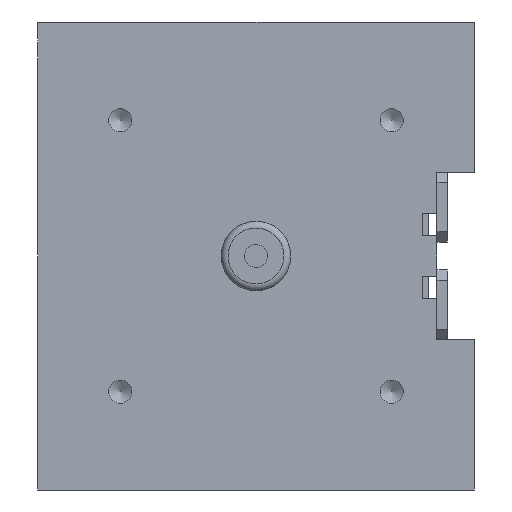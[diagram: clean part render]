
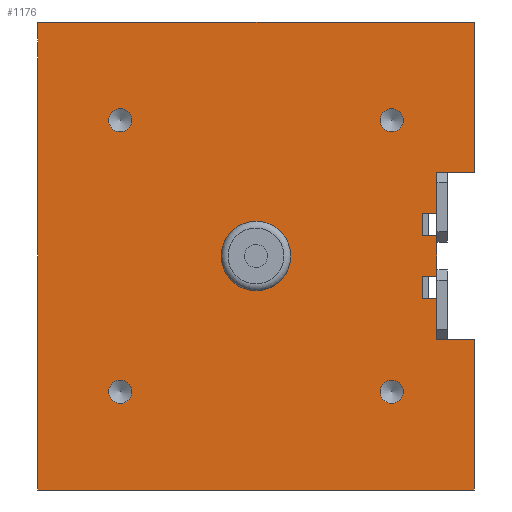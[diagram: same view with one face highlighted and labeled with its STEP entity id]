
A CAD part, front view. The second image highlights one B-rep face of the part: STEP entity #1176.
In plain terms, the highlighted planar face has unit normal (0, -1, 0).
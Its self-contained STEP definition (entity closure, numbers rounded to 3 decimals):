
#970=CARTESIAN_POINT('',(0.,0.,-9.936));
#971=VERTEX_POINT('',#970);
#972=CARTESIAN_POINT('',(0.,0.,0.));
#973=DIRECTION('',(0.0,1.0,0.0));
#974=DIRECTION('',(0.0,0.0,1.0));
#975=AXIS2_PLACEMENT_3D('',#972,#973,#974);
#976=CIRCLE('',#975,9.936);
#977=EDGE_CURVE('',#971,#971,#976,.T.);
#994=CARTESIAN_POINT('',(2.68,0.,0.));
#995=DIRECTION('',(0.0,1.0,0.0));
#996=DIRECTION('',(0.0,0.0,1.0));
#997=AXIS2_PLACEMENT_3D('',#994,#995,#996);
#998=PLANE('',#997);
#999=CARTESIAN_POINT('',(62.5,0.,-67.));
#1000=VERTEX_POINT('',#999);
#1001=CARTESIAN_POINT('',(-62.5,0.,-67.));
#1002=VERTEX_POINT('',#1001);
#1003=CARTESIAN_POINT('',(62.5,0.,-67.));
#1004=DIRECTION('',(-1.0,0.0,0.0));
#1005=VECTOR('',#1004,125.0);
#1006=LINE('',#1003,#1005);
#1007=EDGE_CURVE('',#1000,#1002,#1006,.T.);
#1008=ORIENTED_EDGE('',*,*,#1007,.F.);
#1009=CARTESIAN_POINT('',(62.5,0.,-24.));
#1010=VERTEX_POINT('',#1009);
#1011=CARTESIAN_POINT('',(62.5,0.,-24.));
#1012=DIRECTION('',(0.0,0.0,-1.0));
#1013=VECTOR('',#1012,43.);
#1014=LINE('',#1011,#1013);
#1015=EDGE_CURVE('',#1010,#1000,#1014,.T.);
#1016=ORIENTED_EDGE('',*,*,#1015,.F.);
#1017=CARTESIAN_POINT('',(51.8,0.,-24.));
#1018=VERTEX_POINT('',#1017);
#1019=CARTESIAN_POINT('',(51.8,0.,-24.));
#1020=DIRECTION('',(1.0,0.0,0.0));
#1021=VECTOR('',#1020,10.7);
#1022=LINE('',#1019,#1021);
#1023=EDGE_CURVE('',#1018,#1010,#1022,.T.);
#1024=ORIENTED_EDGE('',*,*,#1023,.F.);
#1025=CARTESIAN_POINT('',(51.8,0.,-12.2));
#1026=VERTEX_POINT('',#1025);
#1027=CARTESIAN_POINT('',(51.8,0.,-12.2));
#1028=DIRECTION('',(0.0,0.0,-1.0));
#1029=VECTOR('',#1028,11.8);
#1030=LINE('',#1027,#1029);
#1031=EDGE_CURVE('',#1026,#1018,#1030,.T.);
#1032=ORIENTED_EDGE('',*,*,#1031,.F.);
#1033=CARTESIAN_POINT('',(47.6,0.,-12.2));
#1034=VERTEX_POINT('',#1033);
#1035=CARTESIAN_POINT('',(47.6,0.,-12.2));
#1036=DIRECTION('',(1.0,0.0,0.0));
#1037=VECTOR('',#1036,4.2);
#1038=LINE('',#1035,#1037);
#1039=EDGE_CURVE('',#1034,#1026,#1038,.T.);
#1040=ORIENTED_EDGE('',*,*,#1039,.F.);
#1041=CARTESIAN_POINT('',(47.6,0.,-5.8));
#1042=VERTEX_POINT('',#1041);
#1043=CARTESIAN_POINT('',(47.6,0.,-5.8));
#1044=DIRECTION('',(0.0,0.0,-1.0));
#1045=VECTOR('',#1044,6.4);
#1046=LINE('',#1043,#1045);
#1047=EDGE_CURVE('',#1042,#1034,#1046,.T.);
#1048=ORIENTED_EDGE('',*,*,#1047,.F.);
#1049=CARTESIAN_POINT('',(51.8,0.,-5.8));
#1050=VERTEX_POINT('',#1049);
#1051=CARTESIAN_POINT('',(51.8,0.,-5.8));
#1052=DIRECTION('',(-1.0,0.0,0.0));
#1053=VECTOR('',#1052,4.2);
#1054=LINE('',#1051,#1053);
#1055=EDGE_CURVE('',#1050,#1042,#1054,.T.);
#1056=ORIENTED_EDGE('',*,*,#1055,.F.);
#1057=CARTESIAN_POINT('',(51.8,0.,5.8));
#1058=VERTEX_POINT('',#1057);
#1059=CARTESIAN_POINT('',(51.8,0.,5.8));
#1060=DIRECTION('',(0.0,0.0,-1.0));
#1061=VECTOR('',#1060,11.6);
#1062=LINE('',#1059,#1061);
#1063=EDGE_CURVE('',#1058,#1050,#1062,.T.);
#1064=ORIENTED_EDGE('',*,*,#1063,.F.);
#1065=CARTESIAN_POINT('',(47.6,0.,5.8));
#1066=VERTEX_POINT('',#1065);
#1067=CARTESIAN_POINT('',(47.6,0.,5.8));
#1068=DIRECTION('',(1.0,0.0,0.0));
#1069=VECTOR('',#1068,4.2);
#1070=LINE('',#1067,#1069);
#1071=EDGE_CURVE('',#1066,#1058,#1070,.T.);
#1072=ORIENTED_EDGE('',*,*,#1071,.F.);
#1073=CARTESIAN_POINT('',(47.6,0.,12.2));
#1074=VERTEX_POINT('',#1073);
#1075=CARTESIAN_POINT('',(47.6,0.,12.2));
#1076=DIRECTION('',(0.0,0.0,-1.0));
#1077=VECTOR('',#1076,6.4);
#1078=LINE('',#1075,#1077);
#1079=EDGE_CURVE('',#1074,#1066,#1078,.T.);
#1080=ORIENTED_EDGE('',*,*,#1079,.F.);
#1081=CARTESIAN_POINT('',(51.8,0.,12.2));
#1082=VERTEX_POINT('',#1081);
#1083=CARTESIAN_POINT('',(51.8,0.,12.2));
#1084=DIRECTION('',(-1.0,0.0,0.0));
#1085=VECTOR('',#1084,4.2);
#1086=LINE('',#1083,#1085);
#1087=EDGE_CURVE('',#1082,#1074,#1086,.T.);
#1088=ORIENTED_EDGE('',*,*,#1087,.F.);
#1089=CARTESIAN_POINT('',(51.8,0.,24.));
#1090=VERTEX_POINT('',#1089);
#1091=CARTESIAN_POINT('',(51.8,0.,24.));
#1092=DIRECTION('',(0.0,0.0,-1.0));
#1093=VECTOR('',#1092,11.8);
#1094=LINE('',#1091,#1093);
#1095=EDGE_CURVE('',#1090,#1082,#1094,.T.);
#1096=ORIENTED_EDGE('',*,*,#1095,.F.);
#1097=CARTESIAN_POINT('',(62.5,0.,24.));
#1098=VERTEX_POINT('',#1097);
#1099=CARTESIAN_POINT('',(62.5,0.,24.));
#1100=DIRECTION('',(-1.0,0.0,0.0));
#1101=VECTOR('',#1100,10.7);
#1102=LINE('',#1099,#1101);
#1103=EDGE_CURVE('',#1098,#1090,#1102,.T.);
#1104=ORIENTED_EDGE('',*,*,#1103,.F.);
#1105=CARTESIAN_POINT('',(62.5,0.,67.));
#1106=VERTEX_POINT('',#1105);
#1107=CARTESIAN_POINT('',(62.5,0.,67.));
#1108=DIRECTION('',(0.0,0.0,-1.0));
#1109=VECTOR('',#1108,43.);
#1110=LINE('',#1107,#1109);
#1111=EDGE_CURVE('',#1106,#1098,#1110,.T.);
#1112=ORIENTED_EDGE('',*,*,#1111,.F.);
#1113=CARTESIAN_POINT('',(-62.5,0.,67.));
#1114=VERTEX_POINT('',#1113);
#1115=CARTESIAN_POINT('',(-62.5,0.,67.));
#1116=DIRECTION('',(1.0,0.0,0.0));
#1117=VECTOR('',#1116,125.0);
#1118=LINE('',#1115,#1117);
#1119=EDGE_CURVE('',#1114,#1106,#1118,.T.);
#1120=ORIENTED_EDGE('',*,*,#1119,.F.);
#1121=CARTESIAN_POINT('',(-62.5,0.,-67.));
#1122=DIRECTION('',(0.0,0.0,1.0));
#1123=VECTOR('',#1122,134.0);
#1124=LINE('',#1121,#1123);
#1125=EDGE_CURVE('',#1002,#1114,#1124,.T.);
#1126=ORIENTED_EDGE('',*,*,#1125,.F.);
#1127=EDGE_LOOP('',(#1008,#1016,#1024,#1032,#1040,#1048,#1056,#1064,#1072,#1080,#1088,#1096,#1104,#1112,#1120,#1126));
#1128=FACE_OUTER_BOUND('',#1127,.T.);
#1129=CARTESIAN_POINT('',(38.891,0.,-42.214));
#1130=VERTEX_POINT('',#1129);
#1131=CARTESIAN_POINT('',(38.891,0.,-38.891));
#1132=DIRECTION('',(0.0,1.0,0.0));
#1133=DIRECTION('',(0.0,0.0,-1.0));
#1134=AXIS2_PLACEMENT_3D('',#1131,#1132,#1133);
#1135=CIRCLE('',#1134,3.324);
#1136=EDGE_CURVE('',#1130,#1130,#1135,.T.);
#1137=ORIENTED_EDGE('',*,*,#1136,.T.);
#1138=EDGE_LOOP('',(#1137));
#1139=FACE_BOUND('',#1138,.T.);
#1140=CARTESIAN_POINT('',(38.891,0.,35.567));
#1141=VERTEX_POINT('',#1140);
#1142=CARTESIAN_POINT('',(38.891,0.,38.891));
#1143=DIRECTION('',(0.0,1.0,0.0));
#1144=DIRECTION('',(0.0,0.0,-1.0));
#1145=AXIS2_PLACEMENT_3D('',#1142,#1143,#1144);
#1146=CIRCLE('',#1145,3.324);
#1147=EDGE_CURVE('',#1141,#1141,#1146,.T.);
#1148=ORIENTED_EDGE('',*,*,#1147,.T.);
#1149=EDGE_LOOP('',(#1148));
#1150=FACE_BOUND('',#1149,.T.);
#1151=CARTESIAN_POINT('',(-38.891,0.,35.567));
#1152=VERTEX_POINT('',#1151);
#1153=CARTESIAN_POINT('',(-38.891,0.,38.891));
#1154=DIRECTION('',(0.0,1.0,0.0));
#1155=DIRECTION('',(0.0,0.0,-1.0));
#1156=AXIS2_PLACEMENT_3D('',#1153,#1154,#1155);
#1157=CIRCLE('',#1156,3.324);
#1158=EDGE_CURVE('',#1152,#1152,#1157,.T.);
#1159=ORIENTED_EDGE('',*,*,#1158,.T.);
#1160=EDGE_LOOP('',(#1159));
#1161=FACE_BOUND('',#1160,.T.);
#1162=CARTESIAN_POINT('',(-38.891,0.,-42.214));
#1163=VERTEX_POINT('',#1162);
#1164=CARTESIAN_POINT('',(-38.891,0.,-38.891));
#1165=DIRECTION('',(0.0,1.0,0.0));
#1166=DIRECTION('',(0.0,0.0,-1.0));
#1167=AXIS2_PLACEMENT_3D('',#1164,#1165,#1166);
#1168=CIRCLE('',#1167,3.324);
#1169=EDGE_CURVE('',#1163,#1163,#1168,.T.);
#1170=ORIENTED_EDGE('',*,*,#1169,.T.);
#1171=EDGE_LOOP('',(#1170));
#1172=FACE_BOUND('',#1171,.T.);
#1173=ORIENTED_EDGE('',*,*,#977,.T.);
#1174=EDGE_LOOP('',(#1173));
#1175=FACE_BOUND('',#1174,.T.);
#1176=ADVANCED_FACE('',(#1128,#1139,#1150,#1161,#1172,#1175),#998,.F.);
